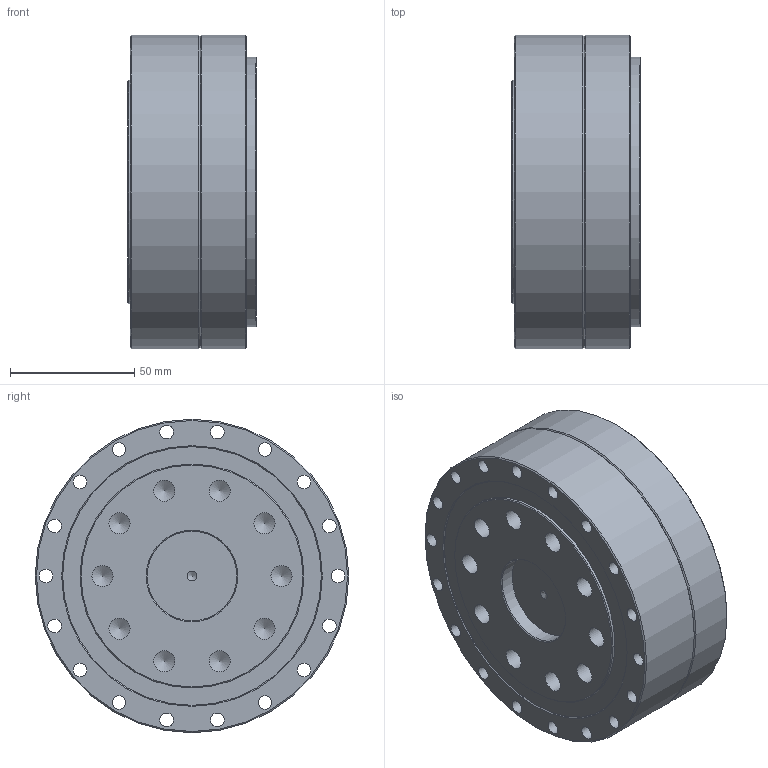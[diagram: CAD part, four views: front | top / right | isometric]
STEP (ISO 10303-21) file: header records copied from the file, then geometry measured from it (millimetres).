
FILE_DESCRIPTION (( 'STEP AP203' ), '1' );
FILE_NAME ('FCD-40-XXX-AJ.STEP', '2025-03-19T01:19:50', ( '微软用户' ), ( '微软中国' ), 'SwSTEP 2.0', 'SolidWorks 2016', '' );
FILE_SCHEMA (( 'CONFIG_CONTROL_DESIGN' ));
Length unit declared in the file: millimetre
Products named in the file (1): FCD-40-XXX-AJ
Bounding box: 51.7 x 126 x 126 mm (x, y, z)
Volume: 441750.3 mm3; surface area: 194153.4 mm2
Topology: 45 solids, 45 shells, 523 faces, 1237 edges, 805 vertices
Faces by surface type: plane 209, cylinder 190, cone 66, torus 35, sphere 23
Full cylindrical faces by diameter (mm): 2.5 x6, 3 x6, 3.4 x6, 4.2 x4, 5.5 x42, 6 x6, 6.8 x6, 8 x6, 8.5 x10, 9 x6, 13 x6, 30 x1, 32 x2, 36 x1, 40 x1, 64 x1, 70.72 x1, 71.12 x2, 76.25 x2, 78 x1, 78.52 x1, 85 x1, 87.843 x1, 90 x4, 93.22 x2, 95.5 x3, 98.17 x1, 98.171 x1, 98.5 x3, 99.57 x1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
Entity records: 13029 total; most frequent: DIRECTION 2446, CARTESIAN_POINT 2066, ORIENTED_EDGE 1706, AXIS2_PLACEMENT_3D 1069, EDGE_LOOP 912, EDGE_CURVE 853, VERTEX_POINT 689, FACE_OUTER_BOUND 677
